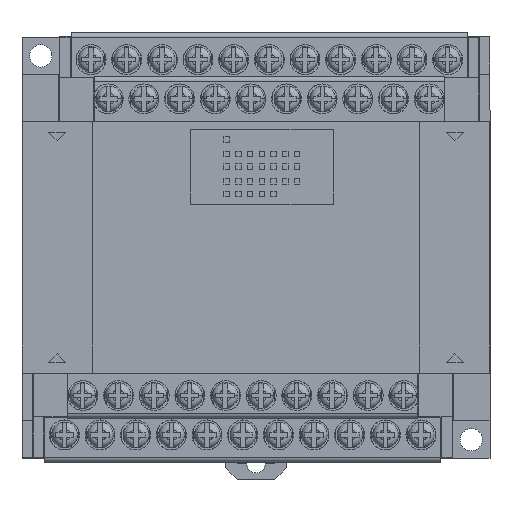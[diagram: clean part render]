
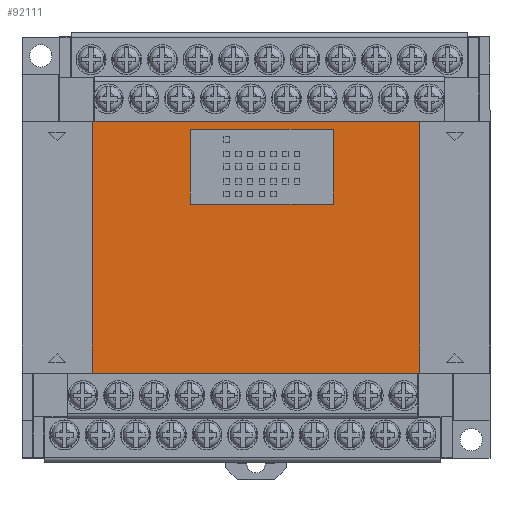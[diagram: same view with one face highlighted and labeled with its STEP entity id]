
A CAD part, top view. The second image highlights one B-rep face of the part: STEP entity #92111.
In plain terms, the highlighted planar face has unit normal (0, 0, 1).
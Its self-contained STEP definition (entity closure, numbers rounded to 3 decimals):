
#75404 = EDGE_CURVE ( 'NONE', #75435, #75406, #117859, .T. ) ;
#75406 = VERTEX_POINT ( 'NONE', #117852 ) ;
#75416 = EDGE_CURVE ( 'NONE', #75417, #75418, #117847, .T. ) ;
#75417 = VERTEX_POINT ( 'NONE', #117843 ) ;
#75418 = VERTEX_POINT ( 'NONE', #117842 ) ;
#75433 = EDGE_CURVE ( 'NONE', #75418, #75435, #117880, .T. ) ;
#75435 = VERTEX_POINT ( 'NONE', #117872 ) ;
#75501 = EDGE_CURVE ( 'NONE', #75406, #75417, #118053, .T. ) ;
#90876 = EDGE_LOOP ( 'NONE', ( #90930, #91430, #96899, #96529 ) ) ;
#90930 = ORIENTED_EDGE ( 'NONE', *, *, #91867, .T. ) ;
#91061 = VERTEX_POINT ( 'NONE', #128918 ) ;
#91140 = VERTEX_POINT ( 'NONE', #128909 ) ;
#91303 = ORIENTED_EDGE ( 'NONE', *, *, #75433, .F. ) ;
#91398 = EDGE_CURVE ( 'NONE', #91407, #91061, #129009, .T. ) ;
#91404 = VERTEX_POINT ( 'NONE', #129005 ) ;
#91407 = VERTEX_POINT ( 'NONE', #129004 ) ;
#91430 = ORIENTED_EDGE ( 'NONE', *, *, #91398, .T. ) ;
#91434 = ORIENTED_EDGE ( 'NONE', *, *, #75416, .F. ) ;
#91638 = EDGE_LOOP ( 'NONE', ( #91643, #91662, #91303, #91434 ) ) ;
#91643 = ORIENTED_EDGE ( 'NONE', *, *, #75501, .F. ) ;
#91662 = ORIENTED_EDGE ( 'NONE', *, *, #75404, .F. ) ;
#91867 = EDGE_CURVE ( 'NONE', #91404, #91407, #128997, .T. ) ;
#92111 = ADVANCED_FACE ( 'NONE', ( #128992, #128991 ), #129039, .T. ) ;
#96529 = ORIENTED_EDGE ( 'NONE', *, *, #96694, .T. ) ;
#96694 = EDGE_CURVE ( 'NONE', #91140, #91404, #129352, .T. ) ;
#96899 = ORIENTED_EDGE ( 'NONE', *, *, #96917, .T. ) ;
#96917 = EDGE_CURVE ( 'NONE', #91061, #91140, #128866, .T. ) ;
#117842 = CARTESIAN_POINT ( 'NONE',  ( 16.5, 9.2, 79. ) ) ;
#117843 = CARTESIAN_POINT ( 'NONE',  ( -14., 9.2, 79. ) ) ;
#117844 = DIRECTION ( 'NONE',  ( 1., 0., 0. ) ) ;
#117845 = VECTOR ( 'NONE', #117844, 1000. ) ;
#117846 = CARTESIAN_POINT ( 'NONE',  ( -14., 9.2, 79. ) ) ;
#117847 = LINE ( 'NONE', #117846, #117845 ) ;
#117852 = CARTESIAN_POINT ( 'NONE',  ( -14., 25.2, 79. ) ) ;
#117853 = DIRECTION ( 'NONE',  ( -1., 0., 0. ) ) ;
#117854 = VECTOR ( 'NONE', #117853, 1000. ) ;
#117855 = CARTESIAN_POINT ( 'NONE',  ( -14., 25.2, 79. ) ) ;
#117859 = LINE ( 'NONE', #117855, #117854 ) ;
#117872 = CARTESIAN_POINT ( 'NONE',  ( 16.5, 25.2, 79. ) ) ;
#117873 = DIRECTION ( 'NONE',  ( 0., 1., 0. ) ) ;
#117874 = VECTOR ( 'NONE', #117873, 1000. ) ;
#117875 = CARTESIAN_POINT ( 'NONE',  ( 16.5, 25.2, 79. ) ) ;
#117880 = LINE ( 'NONE', #117875, #117874 ) ;
#118049 = DIRECTION ( 'NONE',  ( 0., -1., 0. ) ) ;
#118050 = VECTOR ( 'NONE', #118049, 1000. ) ;
#118051 = CARTESIAN_POINT ( 'NONE',  ( -14., 25.2, 79. ) ) ;
#118053 = LINE ( 'NONE', #118051, #118050 ) ;
#128859 = DIRECTION ( 'NONE',  ( 0., 1., 0. ) ) ;
#128860 = VECTOR ( 'NONE', #128859, 1000. ) ;
#128865 = CARTESIAN_POINT ( 'NONE',  ( 35., 26.9, 79. ) ) ;
#128866 = LINE ( 'NONE', #128865, #128860 ) ;
#128909 = CARTESIAN_POINT ( 'NONE',  ( 35., 26.9, 79. ) ) ;
#128918 = CARTESIAN_POINT ( 'NONE',  ( 35., -26.9, 79. ) ) ;
#128991 = FACE_OUTER_BOUND ( 'NONE', #90876, .T. ) ;
#128992 = FACE_BOUND ( 'NONE', #91638, .T. ) ;
#128994 = DIRECTION ( 'NONE',  ( 0., -1., 0. ) ) ;
#128995 = VECTOR ( 'NONE', #128994, 1000. ) ;
#128996 = CARTESIAN_POINT ( 'NONE',  ( -35., 26.9, 79. ) ) ;
#128997 = LINE ( 'NONE', #128996, #128995 ) ;
#129004 = CARTESIAN_POINT ( 'NONE',  ( -35., -26.9, 79. ) ) ;
#129005 = CARTESIAN_POINT ( 'NONE',  ( -35., 26.9, 79. ) ) ;
#129006 = DIRECTION ( 'NONE',  ( 1., 0., 0. ) ) ;
#129007 = VECTOR ( 'NONE', #129006, 1000. ) ;
#129008 = CARTESIAN_POINT ( 'NONE',  ( -35., -26.9, 79. ) ) ;
#129009 = LINE ( 'NONE', #129008, #129007 ) ;
#129034 = DIRECTION ( 'NONE',  ( 1., 0., 0. ) ) ;
#129035 = DIRECTION ( 'NONE',  ( 0., 0., 1. ) ) ;
#129036 = CARTESIAN_POINT ( 'NONE',  ( -35., -26.9, 79. ) ) ;
#129037 = AXIS2_PLACEMENT_3D ( 'NONE', #129036, #129035, #129034 ) ;
#129039 = PLANE ( 'NONE',  #129037 ) ;
#129349 = DIRECTION ( 'NONE',  ( -1., 0., 0. ) ) ;
#129350 = VECTOR ( 'NONE', #129349, 1000. ) ;
#129351 = CARTESIAN_POINT ( 'NONE',  ( -35., 26.9, 79. ) ) ;
#129352 = LINE ( 'NONE', #129351, #129350 ) ;
